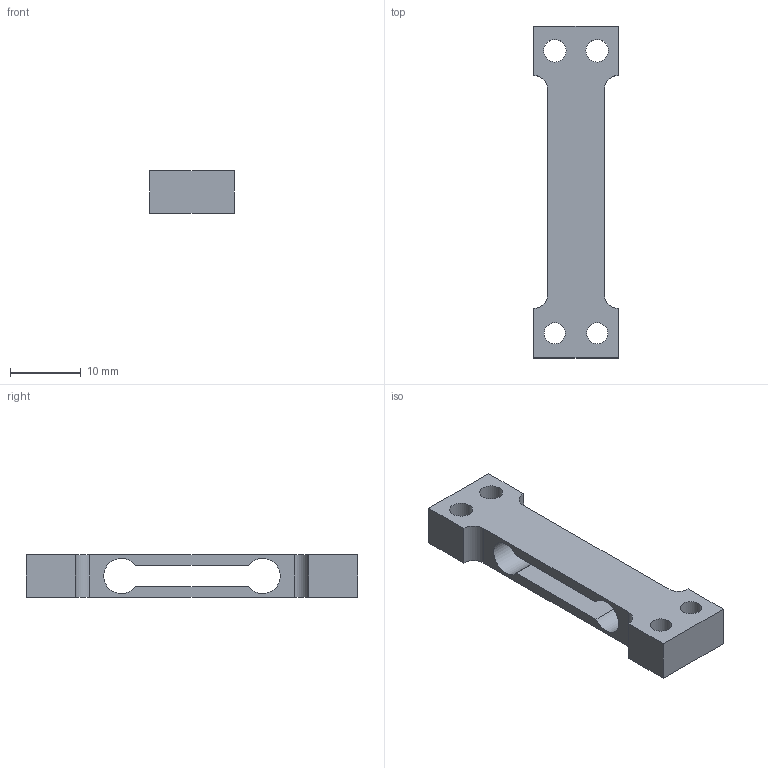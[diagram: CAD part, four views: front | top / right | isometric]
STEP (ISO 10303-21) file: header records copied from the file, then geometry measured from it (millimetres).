
FILE_DESCRIPTION(/* description */ ('STEP AP242','CAx-IF Rec.Pracs.---Representation and Presentation of Product Manufacturing Information (PMI)---4.0---2014-10-13','CAx-IF Rec.Pracs.---3D Tessellated Geometry---0.4---2014-09-14','2;1'),/* implementation_level */ '2;1');
FILE_NAME(/* name */ 'Arm Assembly - Load Cell',/* time_stamp */ '2025-06-20T22:34:11Z',/* author */ (''),/* organization */ (''),/* preprocessor_version */ 'ST-DEVELOPER v20',/* originating_system */ 'ONSHAPE BY PTC INC, 1.199',/* authorisation */ ' ');
FILE_SCHEMA (('AP242_MANAGED_MODEL_BASED_3D_ENGINEERING_MIM_LF { 1 0 10303 442 1 1 4 }'));
Length unit declared in the file: metre
Products named in the file (1): Load Cell
Bounding box: 12 x 47 x 6 mm (x, y, z)
Volume: 1749.5 mm3; surface area: 2065 mm2
Topology: 1 solids, 1 shells, 22 faces, 60 edges, 40 vertices
Faces by surface type: plane 12, cylinder 10
Full cylindrical faces by diameter (mm): 3 x2, 3.2 x2
Entity records: 726 total; most frequent: DIRECTION 122, CARTESIAN_POINT 119, ORIENTED_EDGE 112, EDGE_CURVE 56, AXIS2_PLACEMENT_3D 43, VERTEX_POINT 40, LINE 36, VECTOR 36
